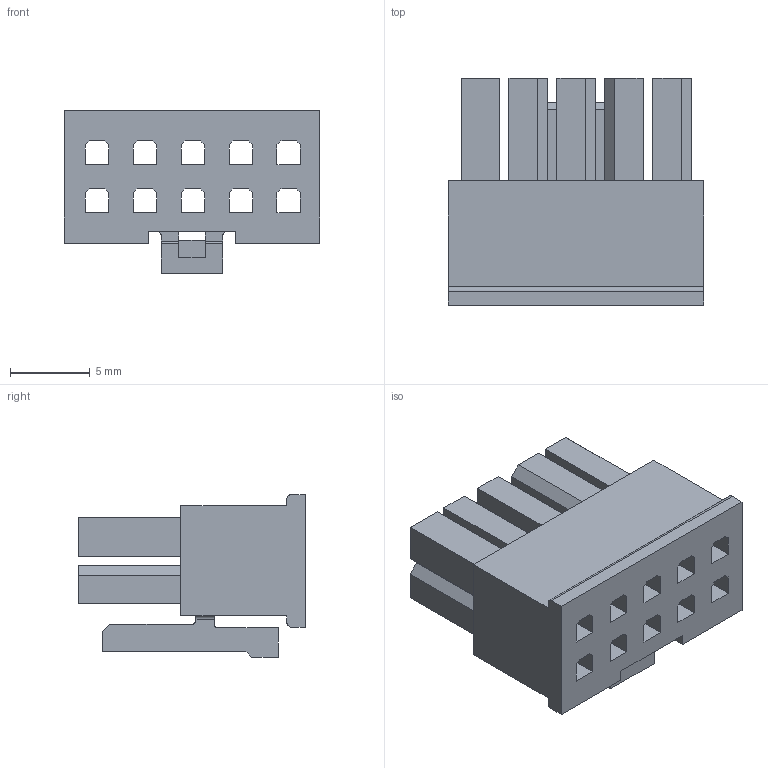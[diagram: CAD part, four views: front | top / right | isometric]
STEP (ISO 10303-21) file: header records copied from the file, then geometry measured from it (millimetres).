
FILE_DESCRIPTION (( 'STEP AP214' ), '1' );
FILE_NAME ('4976-2X05MHB.STEP', '2018-08-02T02:30:28', ( 'ADMIN' ), ( '' ), 'SwSTEP 2.0', 'SolidWorks 2011', '' );
FILE_SCHEMA (( 'AUTOMOTIVE_DESIGN' ));
Length unit declared in the file: millimetre
Products named in the file (2): housing05; 4976-2X05MHB
Assembly tree (1 placements, depth 2):
  4976-2X05MHB
    housing05
Bounding box: 16 x 14.2 x 10.2 mm (x, y, z)
Volume: 993.8 mm3; surface area: 2129.6 mm2
Topology: 2 solids, 2 shells, 163 faces, 447 edges, 298 vertices
Faces by surface type: plane 154, cylinder 9
Entity records: 5194 total; most frequent: CARTESIAN_POINT 912, ORIENTED_EDGE 894, DIRECTION 799, EDGE_CURVE 447, VECTOR 429, LINE 429, VERTEX_POINT 298, EDGE_LOOP 193
